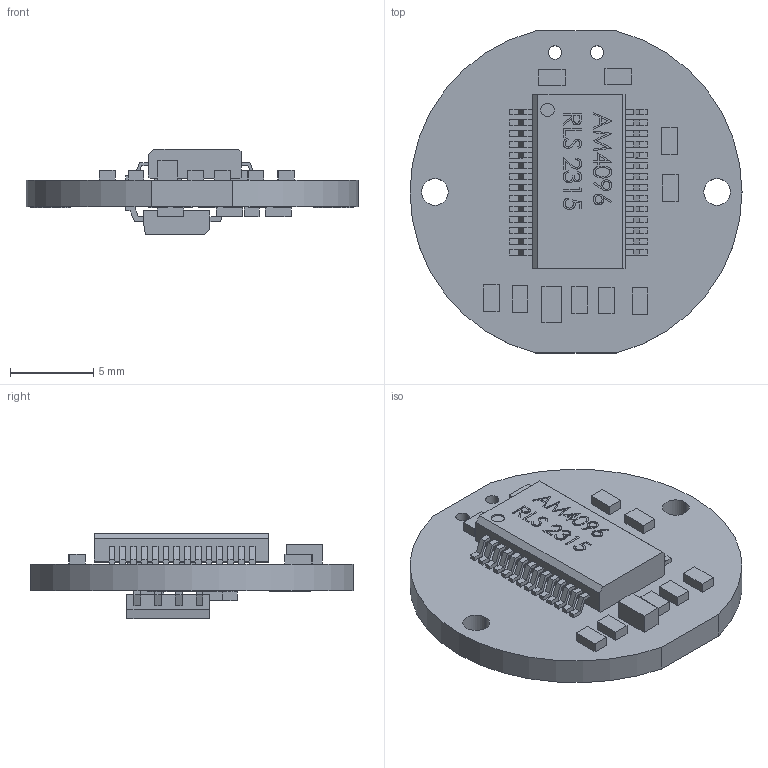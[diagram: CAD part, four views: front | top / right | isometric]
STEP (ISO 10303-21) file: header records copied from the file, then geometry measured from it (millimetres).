
FILE_DESCRIPTION (( 'STEP AP203' ), '1' );
FILE_NAME ('RMB20SC_96.STEP', '2019-03-20T10:52:21', ( '' ), ( '' ), 'SwSTEP 2.0', 'SolidWorks 2016', '' );
FILE_SCHEMA (( 'CONFIG_CONTROL_DESIGN' ));
Length unit declared in the file: millimetre
Products named in the file (1): RMB20SC_96
Bounding box: 20 x 19.4 x 5.17 mm (x, y, z)
Volume: 647 mm3; surface area: 1090.1 mm2
Topology: 1 solids, 1 shells, 614 faces, 1695 edges, 1130 vertices
Faces by surface type: plane 520, bspline 75, cylinder 19
Entity records: 23556 total; most frequent: CARTESIAN_POINT 8115, ORIENTED_EDGE 3390, DIRECTION 2663, EDGE_CURVE 1695, VECTOR 1507, LINE 1507, VERTEX_POINT 1130, EDGE_LOOP 737
